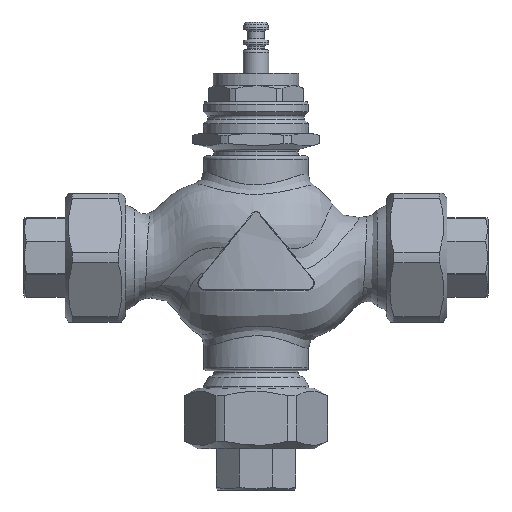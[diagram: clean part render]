
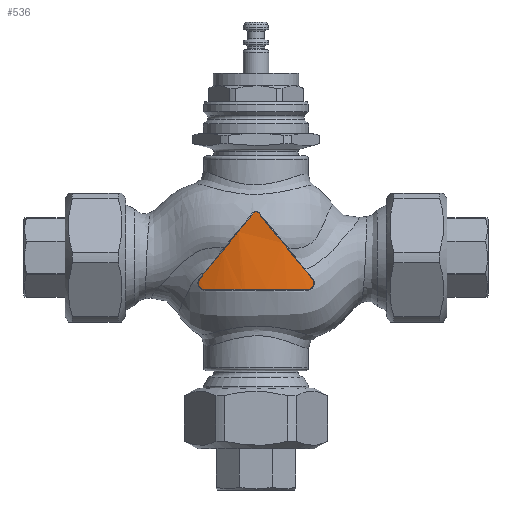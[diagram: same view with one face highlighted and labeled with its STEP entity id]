
A CAD part, front view. The second image highlights one B-rep face of the part: STEP entity #536.
In plain terms, the highlighted cylindrical face has radius 50 mm (diameter 100 mm), a partial arc.
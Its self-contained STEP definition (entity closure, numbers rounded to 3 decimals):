
#128=ELLIPSE('',#4059,79.162,50.);
#129=ELLIPSE('',#4061,79.162,50.);
#191=CYLINDRICAL_SURFACE('',#4064,50.);
#536=ADVANCED_FACE('',(#915),#191,.T.);
#915=FACE_OUTER_BOUND('',#1090,.T.);
#1090=EDGE_LOOP('',(#1892,#1893,#1894,#1895,#1896,#1897,#1898,#1899));
#1445=CIRCLE('',#4032,50.);
#1456=CIRCLE('',#4054,50.);
#1457=CIRCLE('',#4063,50.);
#1715=B_SPLINE_CURVE_WITH_KNOTS('',3,(#11109,#11110,#11111,#11112,#11113,
#11114,#11115,#11116,#11117,#11118,#11119,#11120,#11121,#11122,#11123,#11124,
#11125,#11126,#11127,#11128,#11129,#11130),.UNSPECIFIED.,.F.,.F.,(4,3,3,
3,3,3,3,4),(0.,0.163,0.325,0.484,0.634,
0.774,0.91,1.),.UNSPECIFIED.);
#1717=B_SPLINE_CURVE_WITH_KNOTS('',3,(#11160,#11161,#11162,#11163,#11164,
#11165,#11166,#11167,#11168,#11169,#11170,#11171,#11172,#11173,#11174,#11175,
#11176,#11177,#11178,#11179,#11180,#11181),.UNSPECIFIED.,.F.,.F.,(4,3,3,
3,3,3,3,4),(0.,0.142,0.285,0.422,0.559,
0.701,0.852,1.),.UNSPECIFIED.);
#1719=B_SPLINE_CURVE_WITH_KNOTS('',3,(#11208,#11209,#11210,#11211,#11212,
#11213,#11214,#11215,#11216,#11217,#11218,#11219,#11220,#11221,#11222,#11223,
#11224,#11225,#11226),.UNSPECIFIED.,.F.,.F.,(4,3,3,3,3,3,4),(0.,0.19,
0.38,0.571,0.761,0.951,
1.),.UNSPECIFIED.);
#1892=ORIENTED_EDGE('',*,*,#3263,.F.);
#1893=ORIENTED_EDGE('',*,*,#3268,.T.);
#1894=ORIENTED_EDGE('',*,*,#3278,.F.);
#1895=ORIENTED_EDGE('',*,*,#3275,.T.);
#1896=ORIENTED_EDGE('',*,*,#3283,.F.);
#1897=ORIENTED_EDGE('',*,*,#3271,.T.);
#1898=ORIENTED_EDGE('',*,*,#3228,.F.);
#1899=ORIENTED_EDGE('',*,*,#3284,.F.);
#2850=VERTEX_POINT('',#5656);
#2852=VERTEX_POINT('',#5662);
#2885=VERTEX_POINT('',#11073);
#2886=VERTEX_POINT('',#11074);
#2889=VERTEX_POINT('',#11108);
#2891=VERTEX_POINT('',#11134);
#2893=VERTEX_POINT('',#11185);
#2895=VERTEX_POINT('',#11207);
#3228=EDGE_CURVE('',#2852,#2850,#1445,.T.);
#3263=EDGE_CURVE('',#2885,#2886,#1456,.T.);
#3268=EDGE_CURVE('',#2885,#2889,#1715,.T.);
#3271=EDGE_CURVE('',#2891,#2850,#1717,.T.);
#3275=EDGE_CURVE('',#2893,#2895,#1719,.T.);
#3278=EDGE_CURVE('',#2893,#2889,#128,.T.);
#3283=EDGE_CURVE('',#2891,#2895,#129,.T.);
#3284=EDGE_CURVE('',#2886,#2852,#1457,.T.);
#4032=AXIS2_PLACEMENT_3D('',#5663,#4527,#4528);
#4054=AXIS2_PLACEMENT_3D('',#11072,#4571,#4572);
#4059=AXIS2_PLACEMENT_3D('',#11242,#4586,#4587);
#4061=AXIS2_PLACEMENT_3D('',#11266,#4590,#4591);
#4063=AXIS2_PLACEMENT_3D('',#11268,#4594,#4595);
#4064=AXIS2_PLACEMENT_3D('',#11269,#4596,#4597);
#4527=DIRECTION('',(0.,0.,-1.));
#4528=DIRECTION('',(1.,0.,0.));
#4571=DIRECTION('',(0.,0.,-1.));
#4572=DIRECTION('',(1.,0.,0.));
#4586=DIRECTION('',(0.775,0.,0.632));
#4587=DIRECTION('',(-0.632,0.,0.775));
#4590=DIRECTION('',(-0.775,0.,0.632));
#4591=DIRECTION('',(0.632,0.,0.775));
#4594=DIRECTION('',(0.,0.,-1.));
#4595=DIRECTION('',(1.,0.,0.));
#4596=DIRECTION('',(0.,0.,1.));
#4597=DIRECTION('',(0.,-1.,0.));
#5656=CARTESIAN_POINT('',(83.842,-21.217,90.));
#5662=CARTESIAN_POINT('',(93.408,-23.463,90.));
#5663=CARTESIAN_POINT('',(100.,26.1,90.));
#11072=CARTESIAN_POINT('',(100.,26.1,90.));
#11073=CARTESIAN_POINT('',(116.158,-21.217,90.));
#11074=CARTESIAN_POINT('',(96.727,-23.793,90.));
#11108=CARTESIAN_POINT('',(117.709,-20.659,93.263));
#11109=CARTESIAN_POINT('',(116.158,-21.217,90.));
#11110=CARTESIAN_POINT('',(116.394,-21.137,90.));
#11111=CARTESIAN_POINT('',(116.632,-21.053,90.043));
#11112=CARTESIAN_POINT('',(116.854,-20.974,90.125));
#11113=CARTESIAN_POINT('',(117.075,-20.895,90.207));
#11114=CARTESIAN_POINT('',(117.286,-20.817,90.331));
#11115=CARTESIAN_POINT('',(117.467,-20.75,90.488));
#11116=CARTESIAN_POINT('',(117.645,-20.684,90.641));
#11117=CARTESIAN_POINT('',(117.799,-20.625,90.831));
#11118=CARTESIAN_POINT('',(117.914,-20.581,91.041));
#11119=CARTESIAN_POINT('',(118.021,-20.539,91.239));
#11120=CARTESIAN_POINT('',(118.098,-20.51,91.461));
#11121=CARTESIAN_POINT('',(118.134,-20.496,91.686));
#11122=CARTESIAN_POINT('',(118.167,-20.483,91.898));
#11123=CARTESIAN_POINT('',(118.166,-20.483,92.119));
#11124=CARTESIAN_POINT('',(118.131,-20.497,92.33));
#11125=CARTESIAN_POINT('',(118.096,-20.51,92.536));
#11126=CARTESIAN_POINT('',(118.029,-20.537,92.738));
#11127=CARTESIAN_POINT('',(117.934,-20.573,92.92));
#11128=CARTESIAN_POINT('',(117.871,-20.597,93.042));
#11129=CARTESIAN_POINT('',(117.795,-20.626,93.158));
#11130=CARTESIAN_POINT('',(117.709,-20.659,93.263));
#11134=CARTESIAN_POINT('',(82.291,-20.659,93.263));
#11160=CARTESIAN_POINT('',(82.291,-20.659,93.263));
#11161=CARTESIAN_POINT('',(82.157,-20.608,93.099));
#11162=CARTESIAN_POINT('',(82.047,-20.566,92.909));
#11163=CARTESIAN_POINT('',(81.971,-20.536,92.706));
#11164=CARTESIAN_POINT('',(81.894,-20.507,92.504));
#11165=CARTESIAN_POINT('',(81.85,-20.489,92.284));
#11166=CARTESIAN_POINT('',(81.843,-20.487,92.066));
#11167=CARTESIAN_POINT('',(81.836,-20.484,91.855));
#11168=CARTESIAN_POINT('',(81.863,-20.495,91.64));
#11169=CARTESIAN_POINT('',(81.922,-20.518,91.438));
#11170=CARTESIAN_POINT('',(81.981,-20.54,91.238));
#11171=CARTESIAN_POINT('',(82.072,-20.575,91.047));
#11172=CARTESIAN_POINT('',(82.187,-20.619,90.877));
#11173=CARTESIAN_POINT('',(82.306,-20.665,90.701));
#11174=CARTESIAN_POINT('',(82.455,-20.721,90.544));
#11175=CARTESIAN_POINT('',(82.62,-20.782,90.416));
#11176=CARTESIAN_POINT('',(82.796,-20.847,90.281));
#11177=CARTESIAN_POINT('',(82.996,-20.92,90.175));
#11178=CARTESIAN_POINT('',(83.204,-20.994,90.105));
#11179=CARTESIAN_POINT('',(83.408,-21.067,90.036));
#11180=CARTESIAN_POINT('',(83.626,-21.143,90.));
#11181=CARTESIAN_POINT('',(83.842,-21.217,90.));
#11185=CARTESIAN_POINT('',(100.775,-23.894,114.048));
#11207=CARTESIAN_POINT('',(99.225,-23.894,114.048));
#11208=CARTESIAN_POINT('',(100.775,-23.894,114.048));
#11209=CARTESIAN_POINT('',(100.705,-23.895,114.135));
#11210=CARTESIAN_POINT('',(100.618,-23.896,114.211));
#11211=CARTESIAN_POINT('',(100.523,-23.897,114.269));
#11212=CARTESIAN_POINT('',(100.427,-23.898,114.328));
#11213=CARTESIAN_POINT('',(100.32,-23.899,114.371));
#11214=CARTESIAN_POINT('',(100.211,-23.9,114.394));
#11215=CARTESIAN_POINT('',(100.101,-23.9,114.418));
#11216=CARTESIAN_POINT('',(99.986,-23.9,114.423));
#11217=CARTESIAN_POINT('',(99.875,-23.9,114.409));
#11218=CARTESIAN_POINT('',(99.764,-23.9,114.395));
#11219=CARTESIAN_POINT('',(99.654,-23.899,114.362));
#11220=CARTESIAN_POINT('',(99.554,-23.898,114.312));
#11221=CARTESIAN_POINT('',(99.454,-23.897,114.262));
#11222=CARTESIAN_POINT('',(99.361,-23.896,114.194));
#11223=CARTESIAN_POINT('',(99.283,-23.895,114.114));
#11224=CARTESIAN_POINT('',(99.263,-23.895,114.093));
#11225=CARTESIAN_POINT('',(99.243,-23.894,114.071));
#11226=CARTESIAN_POINT('',(99.225,-23.894,114.048));
#11242=CARTESIAN_POINT('',(100.,26.1,115.));
#11266=CARTESIAN_POINT('',(100.,26.1,115.));
#11268=CARTESIAN_POINT('',(100.,26.1,90.));
#11269=CARTESIAN_POINT('',(100.,26.1,50.));
